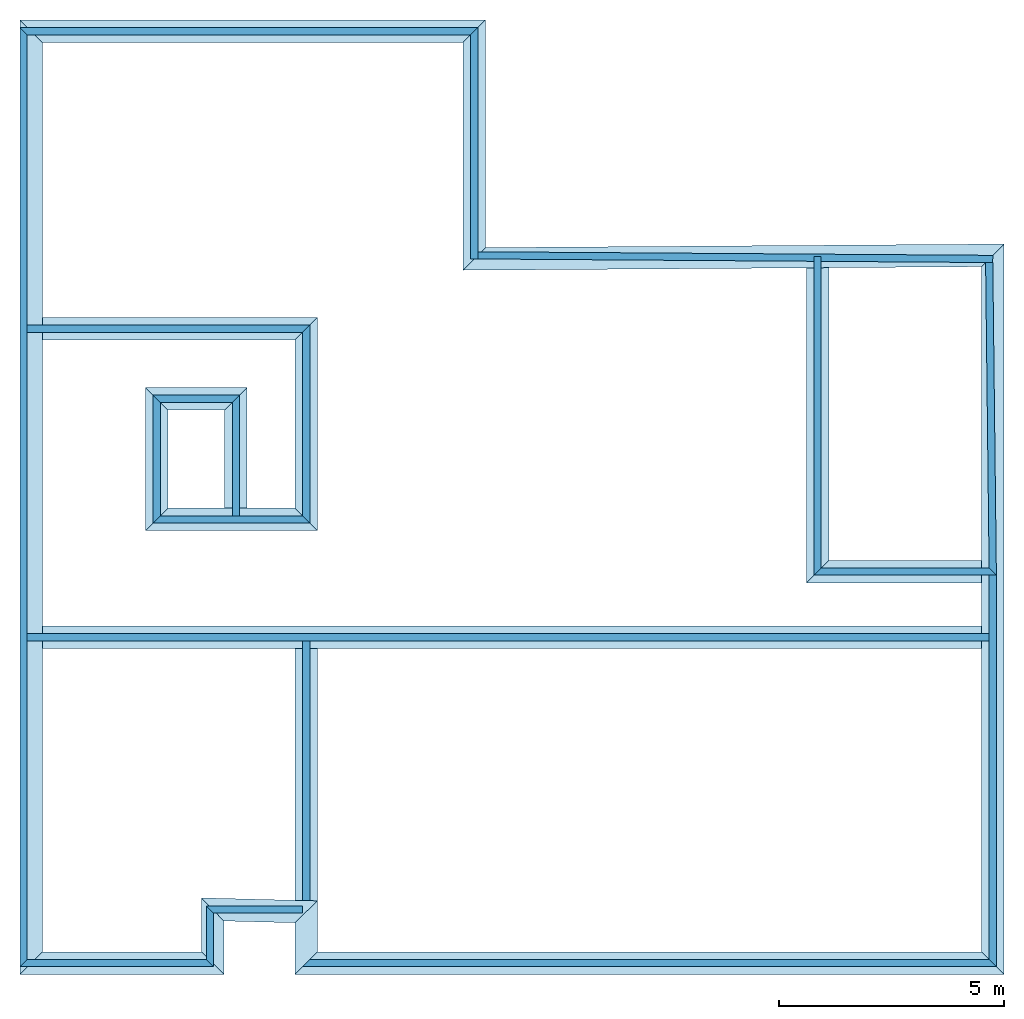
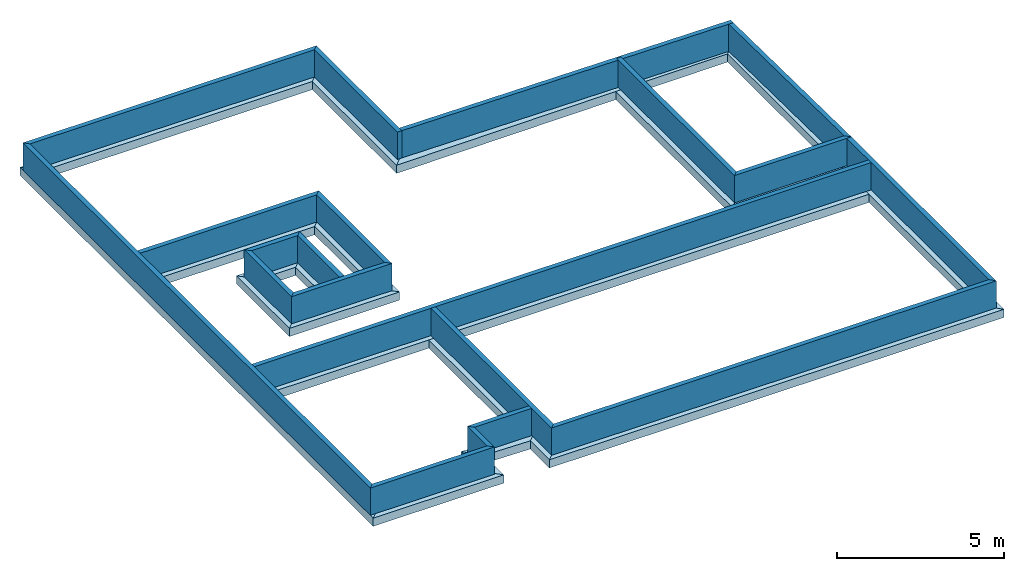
# One storey: 20 footings, 20 walls.
"""IFC2X3 building model written with IfcOpenShell, lengths in metres."""

from ifc_helpers import new_model, entity, si_unit, converted_unit, money_unit, direction, frame, origin_with_axes, place, context, subcontext, project, spatial, polyline, outline, extrude, material, layer, layer_set, layer_usage, type_object, element, save


model = new_model("IFC2X3")

# Units and contexts
model_context = context("Model", 3, precision=1e-05, world=origin_with_axes(), true_north=direction((0.0, 1.0)))
body_context = subcontext(model_context, "Body", "Model", "MODEL_VIEW")
ifc_project = project(units=[si_unit("LENGTHUNIT", "METRE"), si_unit("AREAUNIT", "SQUARE_METRE"), si_unit("VOLUMEUNIT", "CUBIC_METRE"), converted_unit("PLANEANGLEUNIT", "DEGREE", entity("IfcPlaneAngleMeasure", 0.0174532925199), si_unit("PLANEANGLEUNIT", "RADIAN"), dimensions=[0, 0, 0, 0, 0, 0, 0]), si_unit("SOLIDANGLEUNIT", "STERADIAN"), money_unit("EUR"), converted_unit("TIMEUNIT", "Year", entity("IfcTimeMeasure", 31556926.0), si_unit("TIMEUNIT", "SECOND"), dimensions=[0, 0, 0, 0, 0, 0, 0]), si_unit("MASSUNIT", "GRAM"), si_unit("THERMODYNAMICTEMPERATUREUNIT", "DEGREE_CELSIUS"), si_unit("LUMINOUSINTENSITYUNIT", "LUMEN")], contexts=[model_context])

# Site, building, storey
site_placement = place(None, origin_with_axes())
site = spatial("IfcSite", under=ifc_project, at=site_placement, Name="Site", CompositionType="ELEMENT")
building_placement = place(site_placement, origin_with_axes())
building = spatial("IfcBuilding", under=site, at=building_placement, Name="Bâtiment", CompositionType="ELEMENT")
storey_placement = place(building_placement, frame((0.0, 0.0, -1.5), z_axis=(0.0, 0.0, 1.0), x_axis=(1.0, 0.0, 0.0)))
storey = spatial("IfcBuildingStorey", under=building, at=storey_placement, Name="FONDATIONS", CompositionType="ELEMENT", Elevation=-1.5)

# Footings
ifc_material_1 = material(Name="Struct. - B.A. coulé")
footing_1_placement = place(storey_placement, frame((45.558457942, 26.6591158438, 0.0), z_axis=(0.0, 0.0, 1.0), x_axis=(1.0, 0.0, 0.0)))
element("IfcFooting", 1, at=footing_1_placement, inside=storey, material=ifc_material_1, Name="semelle", PredefinedType="NOTDEFINED", context=body_context, shape_type="SweptSolid", body=[
    extrude(outline(polyline([(0.5, -0.25), (9.845, -0.25), (10.345, 0.25), (0.0, 0.25), (0.5, -0.25)])), origin_with_axes(), (0.0, 0.0, 1.0), 0.3),
])
footing_2_placement = place(storey_placement, frame((55.653457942, 26.6591158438, 0.0), z_axis=(0.0, 0.0, 1.0), x_axis=(0.0, -1.0, 0.0)))
element("IfcFooting", 2, at=footing_2_placement, inside=storey, material=ifc_material_1, Name="semelle", PredefinedType="NOTDEFINED", context=body_context, shape_type="SweptSolid", body=[
    extrude(outline(polyline([(0.25, -0.25), (5.31204150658, -0.25), (4.80855874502, 0.25), (-0.25, 0.25), (0.25, -0.25)])), origin_with_axes(), (0.0, 0.0, 1.0), 0.3),
])
footing_3_placement = place(storey_placement, frame((55.653457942, 21.598815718, 0.0), z_axis=(0.0, 0.0, 1.0), x_axis=(0.999975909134, 0.00694126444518, 0.0)))
element("IfcFooting", 3, at=footing_3_placement, inside=storey, material=ifc_material_1, Name="semelle", PredefinedType="NOTDEFINED", context=body_context, shape_type="SweptSolid", body=[
    extrude(outline(polyline([(-0.251741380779, -0.25), (11.2735362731, -0.25), (11.7770190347, 0.25), (0.251741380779, 0.25), (-0.251741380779, -0.25)])), origin_with_axes(), (0.0, 0.0, 1.0), 0.3),
])
footing_4_placement = place(storey_placement, frame((67.178457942, 21.678815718, 0.0), z_axis=(0.0, 0.0, 1.0), x_axis=(0.0, -1.0, 0.0)))
element("IfcFooting", 4, at=footing_4_placement, inside=storey, material=ifc_material_1, Name="semelle", PredefinedType="NOTDEFINED", context=body_context, shape_type="SweptSolid", body=[
    extrude(outline(polyline([(0.251741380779, -0.25), (15.48, -0.25), (15.98, 0.25), (-0.251741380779, 0.25), (0.251741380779, -0.25)])), origin_with_axes(), (0.0, 0.0, 1.0), 0.3),
])
footing_5_placement = place(storey_placement, frame((67.178457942, 5.94881571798, 0.0), z_axis=(0.0, 0.0, 1.0), x_axis=(-1.0, 0.0, 0.0)))
element("IfcFooting", 5, at=footing_5_placement, inside=storey, material=ifc_material_1, Name="semelle", PredefinedType="NOTDEFINED", context=body_context, shape_type="SweptSolid", body=[
    extrude(outline(polyline([(0.25, -0.25), (15.01, -0.25), (15.51, 0.25), (-0.25, 0.25), (0.25, -0.25)])), origin_with_axes(), (0.0, 0.0, 1.0), 0.3),
])
footing_6_placement = place(storey_placement, frame((51.918457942, 5.94881571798, 0.0), z_axis=(0.0, 0.0, 1.0), x_axis=(0.0, 1.0, 0.0)))
element("IfcFooting", 6, at=footing_6_placement, inside=storey, material=ifc_material_1, Name="semelle", PredefinedType="NOTDEFINED", context=body_context, shape_type="SweptSolid", body=[
    extrude(outline(polyline([(0.25, -0.25), (1.38283958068, -0.25), (0.89547568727, 0.25), (-0.25, 0.25), (0.25, -0.25)])), origin_with_axes(), (0.0, 0.0, 1.0), 0.3),
])
footing_7_placement = place(storey_placement, frame((51.918457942, 7.08797335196, 0.0), z_axis=(0.0, 0.0, 1.0), x_axis=(-0.999672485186, 0.0255914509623, 0.0)))
element("IfcFooting", 7, at=footing_7_placement, inside=storey, material=ifc_material_1, Name="semelle", PredefinedType="NOTDEFINED", context=body_context, shape_type="SweptSolid", body=[
    extrude(outline(polyline([(-0.243681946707, -0.25), (2.33716330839, -0.25), (1.82419957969, 0.25), (0.243681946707, 0.25), (-0.243681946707, -0.25)])), origin_with_axes(), (0.0, 0.0, 1.0), 0.3),
])
footing_8_placement = place(storey_placement, frame((49.838457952, 7.1412210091, 0.0), z_axis=(0.0, 0.0, 1.0), x_axis=(0.0, -1.0, 0.0)))
element("IfcFooting", 8, at=footing_8_placement, inside=storey, material=ifc_material_1, Name="semelle", PredefinedType="NOTDEFINED", context=body_context, shape_type="SweptSolid", body=[
    extrude(outline(polyline([(-0.256481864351, -0.25), (0.94240529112, -0.25), (1.44240529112, 0.25), (0.256481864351, 0.25), (-0.256481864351, -0.25)])), origin_with_axes(), (0.0, 0.0, 1.0), 0.3),
])
footing_9_placement = place(storey_placement, frame((49.838457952, 5.94881571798, 0.0), z_axis=(0.0, 0.0, 1.0), x_axis=(-1.0, 0.0, 0.0)))
element("IfcFooting", 9, at=footing_9_placement, inside=storey, material=ifc_material_1, Name="semelle", PredefinedType="NOTDEFINED", context=body_context, shape_type="SweptSolid", body=[
    extrude(outline(polyline([(0.25, -0.25), (3.78000000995, -0.25), (4.28000000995, 0.25), (-0.25, 0.25), (0.25, -0.25)])), origin_with_axes(), (0.0, 0.0, 1.0), 0.3),
])
footing_10_placement = place(storey_placement, frame((45.558457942, 5.94881571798, 0.0), z_axis=(0.0, 0.0, 1.0), x_axis=(0.0, 1.0, 0.0)))
element("IfcFooting", 10, at=footing_10_placement, inside=storey, material=ifc_material_1, Name="Semelles", PredefinedType="NOTDEFINED", context=body_context, shape_type="SweptSolid", body=[
    extrude(outline(polyline([(0.25, -0.5), (20.4603001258, -0.5), (20.9603001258, 0.0), (-0.25, 0.0), (0.25, -0.5)])), origin_with_axes(), (0.0, 0.0, 1.0), 0.3),
])
footing_11_placement = place(storey_placement, frame((67.178457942, 13.188815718, 0.0), z_axis=(0.0, 0.0, 1.0), x_axis=(-1.0, 0.0, 0.0)))
element("IfcFooting", 11, at=footing_11_placement, inside=storey, material=ifc_material_1, Name="Semelles", PredefinedType="NOTDEFINED", context=body_context, shape_type="SweptSolid", body=[
    extrude(outline(polyline([(0.25, -0.25), (21.12, -0.25), (21.12, 0.25), (0.25, 0.25), (0.25, -0.25)])), origin_with_axes(), (0.0, 0.0, 1.0), 0.3),
])
footing_12_placement = place(storey_placement, frame((51.918457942, 7.08797335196, 0.0), z_axis=(0.0, 0.0, 1.0), x_axis=(0.0, 1.0, 0.0)))
element("IfcFooting", 12, at=footing_12_placement, inside=storey, material=ifc_material_1, Name="Semelles", PredefinedType="NOTDEFINED", context=body_context, shape_type="SweptSolid", body=[
    extrude(outline(polyline([(0.243681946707, -0.25), (5.85084236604, -0.25), (5.85084236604, 0.25), (0.256481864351, 0.25), (0.243681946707, -0.25)])), origin_with_axes(), (0.0, 0.0, 1.0), 0.3),
])
footing_13_placement = place(storey_placement, frame((67.178457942, 14.648815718, 0.0), z_axis=(0.0, 0.0, 1.0), x_axis=(-1.0, 0.0, 0.0)))
element("IfcFooting", 13, at=footing_13_placement, inside=storey, material=ifc_material_1, Name="Semelles", PredefinedType="NOTDEFINED", context=body_context, shape_type="SweptSolid", body=[
    extrude(outline(polyline([(0.25, -0.25), (3.645, -0.25), (4.145, 0.25), (0.25, 0.25), (0.25, -0.25)])), origin_with_axes(), (0.0, 0.0, 1.0), 0.3),
])
footing_14_placement = place(storey_placement, frame((63.283457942, 14.648815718, 0.0), z_axis=(0.0, 0.0, 1.0), x_axis=(0.0, 1.0, 0.0)))
element("IfcFooting", 14, at=footing_14_placement, inside=storey, material=ifc_material_1, Name="Semelles", PredefinedType="NOTDEFINED", context=body_context, shape_type="SweptSolid", body=[
    extrude(outline(polyline([(0.25, -0.25), (6.7546924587, -0.25), (6.75122174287, 0.25), (-0.25, 0.25), (0.25, -0.25)])), origin_with_axes(), (0.0, 0.0, 1.0), 0.3),
])
footing_15_placement = place(storey_placement, frame((45.558457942, 20.048815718, 0.0), z_axis=(0.0, 0.0, 1.0), x_axis=(1.0, 0.0, 0.0)))
element("IfcFooting", 15, at=footing_15_placement, inside=storey, material=ifc_material_1, Name="Semelles", PredefinedType="NOTDEFINED", context=body_context, shape_type="SweptSolid", body=[
    extrude(outline(polyline([(0.5, -0.25), (6.11, -0.25), (6.61, 0.25), (0.5, 0.25), (0.5, -0.25)])), origin_with_axes(), (0.0, 0.0, 1.0), 0.3),
])
footing_16_placement = place(storey_placement, frame((51.918457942, 20.048815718, 0.0), z_axis=(0.0, 0.0, 1.0), x_axis=(0.0, -1.0, 0.0)))
element("IfcFooting", 16, at=footing_16_placement, inside=storey, material=ifc_material_1, Name="Semelles", PredefinedType="NOTDEFINED", context=body_context, shape_type="SweptSolid", body=[
    extrude(outline(polyline([(0.25, -0.25), (3.99, -0.25), (4.49, 0.25), (-0.25, 0.25), (0.25, -0.25)])), origin_with_axes(), (0.0, 0.0, 1.0), 0.3),
])
footing_17_placement = place(storey_placement, frame((51.918457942, 15.808815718, 0.0), z_axis=(0.0, 0.0, 1.0), x_axis=(-1.0, 0.0, 0.0)))
element("IfcFooting", 17, at=footing_17_placement, inside=storey, material=ifc_material_1, Name="Semelles", PredefinedType="NOTDEFINED", context=body_context, shape_type="SweptSolid", body=[
    extrude(outline(polyline([(0.25, -0.25), (3.07, -0.25), (3.57, 0.25), (-0.25, 0.25), (0.25, -0.25)])), origin_with_axes(), (0.0, 0.0, 1.0), 0.3),
])
footing_18_placement = place(storey_placement, frame((48.598457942, 15.808815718, 0.0), z_axis=(0.0, 0.0, 1.0), x_axis=(0.0, 1.0, 0.0)))
element("IfcFooting", 18, at=footing_18_placement, inside=storey, material=ifc_material_1, Name="Semelles", PredefinedType="NOTDEFINED", context=body_context, shape_type="SweptSolid", body=[
    extrude(outline(polyline([(0.25, -0.25), (2.43107889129, -0.25), (2.93107889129, 0.25), (-0.25, 0.25), (0.25, -0.25)])), origin_with_axes(), (0.0, 0.0, 1.0), 0.3),
])
footing_19_placement = place(storey_placement, frame((48.598457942, 18.4898946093, 0.0), z_axis=(0.0, 0.0, 1.0), x_axis=(1.0, 0.0, 0.0)))
element("IfcFooting", 19, at=footing_19_placement, inside=storey, material=ifc_material_1, Name="Semelles", PredefinedType="NOTDEFINED", context=body_context, shape_type="SweptSolid", body=[
    extrude(outline(polyline([(0.25, -0.25), (1.51, -0.25), (2.01, 0.25), (-0.25, 0.25), (0.25, -0.25)])), origin_with_axes(), (0.0, 0.0, 1.0), 0.3),
])
footing_20_placement = place(storey_placement, frame((50.358457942, 18.4898946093, 0.0), z_axis=(0.0, 0.0, 1.0), x_axis=(0.0, -1.0, 0.0)))
element("IfcFooting", 20, at=footing_20_placement, inside=storey, material=ifc_material_1, Name="Semelles", PredefinedType="NOTDEFINED", context=body_context, shape_type="SweptSolid", body=[
    extrude(outline(polyline([(0.25, -0.25), (2.43107889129, -0.25), (2.43107889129, 0.25), (-0.25, 0.25), (0.25, -0.25)])), origin_with_axes(), (0.0, 0.0, 1.0), 0.3),
])

# Walls
ifc_material_2 = material(Name="Struct. - B.A. banché")
ifc_layer = layer(ifc_material_2, 0.16, ventilated="UNKNOWN")
ifc_layer_set = layer_set([ifc_layer], Name="Struct. - B.A. banché 0.16")
ifc_layer_usage_1 = layer_usage(ifc_layer_set, "AXIS2", "POSITIVE", -0.08)
wall_type = type_object("IfcWallType", Name="Struct. - B.A. banché 160", PredefinedType="NOTDEFINED")
wall_1_placement = place(storey_placement, frame((45.558457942, 26.6591158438, 0.3), z_axis=(0.0, 0.0, 1.0), x_axis=(1.0, 0.0, 0.0)))
element("IfcWallStandardCase", 21, at=wall_1_placement, inside=storey, type_object=wall_type, material=ifc_layer_usage_1, Name="MurExt-021", context=body_context, shape_type="SweptSolid", body=[
    extrude(outline(polyline([(0.16, -0.08), (10.015, -0.08), (10.175, 0.08), (0.0, 0.08), (0.16, -0.08)])), origin_with_axes(), (0.0, 0.0, 1.0), 1.0),
])
ifc_layer_usage_2 = layer_usage(ifc_layer_set, "AXIS2", "POSITIVE", -0.08)
wall_2_placement = place(storey_placement, frame((55.653457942, 26.6591158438, 0.3), z_axis=(0.0, 0.0, 1.0), x_axis=(0.0, -1.0, 0.0)))
element("IfcWallStandardCase", 22, at=wall_2_placement, inside=storey, type_object=wall_type, material=ifc_layer_usage_2, Name="MurExt-022", context=body_context, shape_type="SweptSolid", body=[
    extrude(outline(polyline([(0.08, -0.08), (5.0603001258, -0.08), (5.0603001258, 0.08), (-0.08, 0.08), (0.08, -0.08)])), origin_with_axes(), (0.0, 0.0, 1.0), 1.0),
])
ifc_layer_usage_3 = layer_usage(ifc_layer_set, "AXIS2", "POSITIVE", -0.08)
wall_3_placement = place(storey_placement, frame((55.653457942, 21.678815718, 0.3), z_axis=(0.0, 0.0, 1.0), x_axis=(0.999975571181, -0.00698978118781, 0.0)))
element("IfcWallStandardCase", 23, at=wall_3_placement, inside=storey, type_object=wall_type, material=ifc_layer_usage_3, Name="MurExt-023", context=body_context, shape_type="SweptSolid", body=[
    extrude(outline(polyline([(0.0805611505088, -0.08), (11.525281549, -0.08), (11.525281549, 0.08), (0.0794427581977, 0.08), (0.0805611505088, -0.08)])), origin_with_axes(), (0.0, 0.0, 1.0), 1.0),
])
ifc_layer_usage_4 = layer_usage(ifc_layer_set, "AXIS2", "POSITIVE", -0.08)
wall_4_placement = place(storey_placement, frame((67.098457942, 21.598815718, 0.3), z_axis=(0.0, 0.0, 1.0), x_axis=(0.0115100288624, -0.999933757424, 0.0)))
element("IfcWallStandardCase", 24, at=wall_4_placement, inside=storey, type_object=wall_type, material=ifc_layer_usage_4, Name="MurExt-024", context=body_context, shape_type="SweptSolid", body=[
    extrude(outline(polyline([(0.078533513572, -0.08), (6.86953425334, -0.08), (7.03138657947, 0.08), (0.0814938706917, 0.08), (0.078533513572, -0.08)])), origin_with_axes(), (0.0, 0.0, 1.0), 1.0),
])
ifc_layer_usage_5 = layer_usage(ifc_layer_set, "AXIS2", "POSITIVE", -0.08)
wall_5_placement = place(storey_placement, frame((67.178457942, 14.648815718, 0.3), z_axis=(0.0, 0.0, 1.0), x_axis=(-1.0, 0.0, 0.0)))
element("IfcWallStandardCase", 25, at=wall_5_placement, inside=storey, type_object=wall_type, material=ifc_layer_usage_5, Name="MurExt-025", context=body_context, shape_type="SweptSolid", body=[
    extrude(outline(polyline([(0.0809261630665, -0.08), (3.815, -0.08), (3.975, 0.08), (-0.0809261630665, 0.08), (0.0809261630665, -0.08)])), origin_with_axes(), (0.0, 0.0, 1.0), 1.0),
])
ifc_layer_usage_6 = layer_usage(ifc_layer_set, "AXIS2", "POSITIVE", -0.08)
wall_6_placement = place(storey_placement, frame((63.283457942, 14.648815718, 0.3), z_axis=(0.0, 0.0, 1.0), x_axis=(0.0, 1.0, 0.0)))
element("IfcWallStandardCase", 26, at=wall_6_placement, inside=storey, type_object=wall_type, material=ifc_layer_usage_6, Name="MurExt-026", context=body_context, shape_type="SweptSolid", body=[
    extrude(outline(polyline([(0.08, -0.08), (7.00296312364, -0.08), (7.00296312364, 0.08), (-0.08, 0.08), (0.08, -0.08)])), origin_with_axes(), (0.0, 0.0, 1.0), 1.0),
])
ifc_layer_usage_7 = layer_usage(ifc_layer_set, "AXIS2", "POSITIVE", -0.08)
wall_7_placement = place(storey_placement, frame((67.178457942, 14.648815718, 0.3), z_axis=(0.0, 0.0, 1.0), x_axis=(0.0, -1.0, 0.0)))
element("IfcWallStandardCase", 27, at=wall_7_placement, inside=storey, type_object=wall_type, material=ifc_layer_usage_7, Name="MurExt-027", context=body_context, shape_type="SweptSolid", body=[
    extrude(outline(polyline([(0.08, -0.08), (8.62000000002, -0.08), (8.78000000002, 0.08), (0.08, 0.08), (0.08, -0.08)])), origin_with_axes(), (0.0, 0.0, 1.0), 1.0),
])
ifc_layer_usage_8 = layer_usage(ifc_layer_set, "AXIS2", "POSITIVE", -0.08)
wall_8_placement = place(storey_placement, frame((67.178457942, 5.94881571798, 0.3), z_axis=(0.0, 0.0, 1.0), x_axis=(-1.0, 0.0, 0.0)))
element("IfcWallStandardCase", 28, at=wall_8_placement, inside=storey, type_object=wall_type, material=ifc_layer_usage_8, Name="MurExt-028", context=body_context, shape_type="SweptSolid", body=[
    extrude(outline(polyline([(0.08, -0.08), (15.18, -0.08), (15.34, 0.08), (-0.08, 0.08), (0.08, -0.08)])), origin_with_axes(), (0.0, 0.0, 1.0), 1.0),
])
ifc_layer_usage_9 = layer_usage(ifc_layer_set, "AXIS2", "POSITIVE", -0.08)
wall_9_placement = place(storey_placement, frame((51.918457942, 5.94881571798, 0.3), z_axis=(0.0, 0.0, 1.0), x_axis=(0.0, 1.0, 0.0)))
element("IfcWallStandardCase", 29, at=wall_9_placement, inside=storey, type_object=wall_type, material=ifc_layer_usage_9, Name="MurExt-029", context=body_context, shape_type="SweptSolid", body=[
    extrude(outline(polyline([(0.08, -0.08), (7.16000000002, -0.08), (7.16000000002, 0.08), (-0.08, 0.08), (0.08, -0.08)])), origin_with_axes(), (0.0, 0.0, 1.0), 1.0),
])
ifc_layer_usage_10 = layer_usage(ifc_layer_set, "AXIS2", "POSITIVE", -0.08)
wall_10_placement = place(storey_placement, frame((67.178457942, 13.188815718, 0.3), z_axis=(0.0, 0.0, 1.0), x_axis=(-1.0, 0.0, 0.0)))
element("IfcWallStandardCase", 30, at=wall_10_placement, inside=storey, type_object=wall_type, material=ifc_layer_usage_10, Name="MurExt-030", context=body_context, shape_type="SweptSolid", body=[
    extrude(outline(polyline([(0.08, -0.08), (21.46, -0.08), (21.46, 0.08), (0.08, 0.08), (0.08, -0.08)])), origin_with_axes(), (0.0, 0.0, 1.0), 1.0),
])
ifc_layer_usage_11 = layer_usage(ifc_layer_set, "AXIS2", "POSITIVE", -0.08)
wall_11_placement = place(storey_placement, frame((51.918457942, 7.1412210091, 0.3), z_axis=(0.0, 0.0, 1.0), x_axis=(-1.0, 0.0, 0.0)))
element("IfcWallStandardCase", 31, at=wall_11_placement, inside=storey, type_object=wall_type, material=ifc_layer_usage_11, Name="MurExt-031", context=body_context, shape_type="SweptSolid", body=[
    extrude(outline(polyline([(0.08, -0.08), (2.22000000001, -0.08), (2.06000000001, 0.08), (0.08, 0.08), (0.08, -0.08)])), origin_with_axes(), (0.0, 0.0, 1.0), 1.0),
])
ifc_layer_usage_12 = layer_usage(ifc_layer_set, "AXIS2", "POSITIVE", -0.08)
wall_12_placement = place(storey_placement, frame((49.778457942, 7.1412210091, 0.3), z_axis=(0.0, 0.0, 1.0), x_axis=(0.0, -1.0, 0.0)))
element("IfcWallStandardCase", 32, at=wall_12_placement, inside=storey, type_object=wall_type, material=ifc_layer_usage_12, Name="MurExt-032", context=body_context, shape_type="SweptSolid", body=[
    extrude(outline(polyline([(-0.08, -0.08), (1.11240529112, -0.08), (1.27240529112, 0.08), (0.08, 0.08), (-0.08, -0.08)])), origin_with_axes(), (0.0, 0.0, 1.0), 1.0),
])
ifc_layer_usage_13 = layer_usage(ifc_layer_set, "AXIS2", "POSITIVE", -0.08)
wall_13_placement = place(storey_placement, frame((49.778457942, 5.94881571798, 0.3), z_axis=(0.0, 0.0, 1.0), x_axis=(-1.0, 0.0, 0.0)))
element("IfcWallStandardCase", 33, at=wall_13_placement, inside=storey, type_object=wall_type, material=ifc_layer_usage_13, Name="MurExt-033", context=body_context, shape_type="SweptSolid", body=[
    extrude(outline(polyline([(0.08, -0.08), (4.05999999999, -0.08), (4.21999999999, 0.08), (-0.08, 0.08), (0.08, -0.08)])), origin_with_axes(), (0.0, 0.0, 1.0), 1.0),
])
ifc_layer_usage_14 = layer_usage(ifc_layer_set, "AXIS2", "POSITIVE", -0.16)
wall_14_placement = place(storey_placement, frame((45.558457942, 5.94881571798, 0.3), z_axis=(0.0, 0.0, 1.0), x_axis=(0.0, 1.0, 0.0)))
element("IfcWallStandardCase", 34, at=wall_14_placement, inside=storey, type_object=wall_type, material=ifc_layer_usage_14, Name="MurExt-034", context=body_context, shape_type="SweptSolid", body=[
    extrude(outline(polyline([(0.08, -0.16), (20.6303001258, -0.16), (20.7903001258, 0.0), (-0.08, 0.0), (0.08, -0.16)])), origin_with_axes(), (0.0, 0.0, 1.0), 1.0),
])
ifc_layer_usage_15 = layer_usage(ifc_layer_set, "AXIS2", "POSITIVE", -0.08)
wall_15_placement = place(storey_placement, frame((45.558457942, 20.048815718, 0.3), z_axis=(0.0, 0.0, 1.0), x_axis=(1.0, 0.0, 0.0)))
element("IfcWallStandardCase", 35, at=wall_15_placement, inside=storey, type_object=wall_type, material=ifc_layer_usage_15, Name="MurExt-035", context=body_context, shape_type="SweptSolid", body=[
    extrude(outline(polyline([(0.16, -0.08), (6.28, -0.08), (6.44, 0.08), (0.16, 0.08), (0.16, -0.08)])), origin_with_axes(), (0.0, 0.0, 1.0), 1.0),
])
ifc_layer_usage_16 = layer_usage(ifc_layer_set, "AXIS2", "POSITIVE", -0.08)
wall_16_placement = place(storey_placement, frame((51.918457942, 20.048815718, 0.3), z_axis=(0.0, 0.0, 1.0), x_axis=(0.0, -1.0, 0.0)))
element("IfcWallStandardCase", 36, at=wall_16_placement, inside=storey, type_object=wall_type, material=ifc_layer_usage_16, Name="MurExt-036", context=body_context, shape_type="SweptSolid", body=[
    extrude(outline(polyline([(0.08, -0.08), (4.16, -0.08), (4.32, 0.08), (-0.08, 0.08), (0.08, -0.08)])), origin_with_axes(), (0.0, 0.0, 1.0), 1.0),
])
ifc_layer_usage_17 = layer_usage(ifc_layer_set, "AXIS2", "POSITIVE", -0.08)
wall_17_placement = place(storey_placement, frame((51.918457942, 15.808815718, 0.3), z_axis=(0.0, 0.0, 1.0), x_axis=(-1.0, 0.0, 0.0)))
element("IfcWallStandardCase", 37, at=wall_17_placement, inside=storey, type_object=wall_type, material=ifc_layer_usage_17, Name="MurExt-037", context=body_context, shape_type="SweptSolid", body=[
    extrude(outline(polyline([(0.08, -0.08), (3.24, -0.08), (3.4, 0.08), (-0.08, 0.08), (0.08, -0.08)])), origin_with_axes(), (0.0, 0.0, 1.0), 1.0),
])
ifc_layer_usage_18 = layer_usage(ifc_layer_set, "AXIS2", "POSITIVE", -0.08)
wall_18_placement = place(storey_placement, frame((48.598457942, 15.808815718, 0.3), z_axis=(0.0, 0.0, 1.0), x_axis=(0.0, 1.0, 0.0)))
element("IfcWallStandardCase", 38, at=wall_18_placement, inside=storey, type_object=wall_type, material=ifc_layer_usage_18, Name="MurExt-038", context=body_context, shape_type="SweptSolid", body=[
    extrude(outline(polyline([(0.08, -0.08), (2.60107889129, -0.08), (2.76107889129, 0.08), (-0.08, 0.08), (0.08, -0.08)])), origin_with_axes(), (0.0, 0.0, 1.0), 1.0),
])
ifc_layer_usage_19 = layer_usage(ifc_layer_set, "AXIS2", "POSITIVE", -0.08)
wall_19_placement = place(storey_placement, frame((48.598457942, 18.4898946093, 0.3), z_axis=(0.0, 0.0, 1.0), x_axis=(1.0, 0.0, 0.0)))
element("IfcWallStandardCase", 39, at=wall_19_placement, inside=storey, type_object=wall_type, material=ifc_layer_usage_19, Name="MurExt-039", context=body_context, shape_type="SweptSolid", body=[
    extrude(outline(polyline([(0.08, -0.08), (1.68, -0.08), (1.84, 0.08), (-0.08, 0.08), (0.08, -0.08)])), origin_with_axes(), (0.0, 0.0, 1.0), 1.0),
])
ifc_layer_usage_20 = layer_usage(ifc_layer_set, "AXIS2", "POSITIVE", -0.08)
wall_20_placement = place(storey_placement, frame((50.358457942, 18.4898946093, 0.3), z_axis=(0.0, 0.0, 1.0), x_axis=(0.0, -1.0, 0.0)))
element("IfcWallStandardCase", 40, at=wall_20_placement, inside=storey, type_object=wall_type, material=ifc_layer_usage_20, Name="MurExt-040", context=body_context, shape_type="SweptSolid", body=[
    extrude(outline(polyline([(0.08, -0.08), (2.60107889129, -0.08), (2.60107889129, 0.08), (-0.08, 0.08), (0.08, -0.08)])), origin_with_axes(), (0.0, 0.0, 1.0), 1.0),
])

save(model, "model.ifc")
